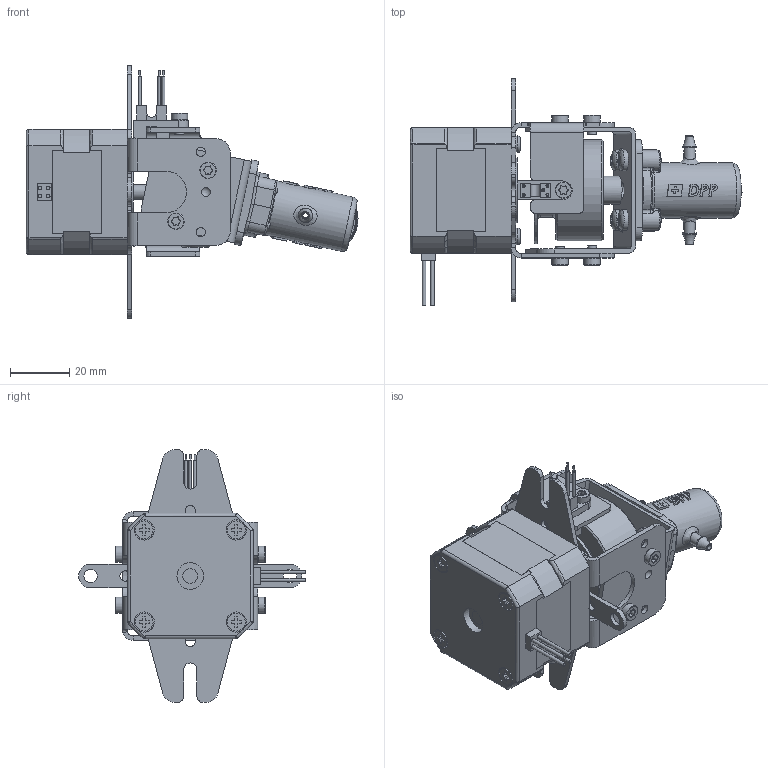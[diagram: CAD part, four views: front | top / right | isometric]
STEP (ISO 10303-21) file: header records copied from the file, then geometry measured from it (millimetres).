
FILE_DESCRIPTION (( 'STEP AP214' ), '1' );
FILE_NAME ('PD0022A2.STEP', '2017-03-06T17:32:46', ( '' ), ( '' ), 'SwSTEP 2.0', 'SolidWorks 2015', '' );
FILE_SCHEMA (( 'AUTOMOTIVE_DESIGN' ));
Length unit declared in the file: millimetre
Products named in the file (22): PD22-CP-1; PD22-DE-0; PD22-MO-0; PD22-SC-0_SC0111; PD22-OS-0; PD03-SC-0; PD22-SC-2_SC0104; PD22-MB-0_Standard; PD22-PP-1; PD22-SC-1_SC0112; PD0022A2; PD22-PA-2; PD22-PA-0; PD22-EA-1; PD22-DP-0; PD22-EL-0; PD22-CH-1A2; PD22-CH-0A2; Housing^PD22-CH-0A2; PD22-MB-1; PD22-MA-0; PD22-EA-0
Assembly tree (30 placements, depth 6):
  PD0022A2
    PD22-MA-0
      PD22-MB-0_Standard
      PD03-SC-0  x4
      PD22-OS-0
      PD22-SC-0_SC0111
      PD22-MO-0
      PD22-EA-0
        PD22-DE-0
        PD22-CP-1
    PD22-PP-1
      PD22-MB-1
      PD22-PA-2
        PD22-CH-1A2
          PD22-CH-0A2
            Housing^PD22-CH-0A2
        PD22-PA-0
          PD22-EA-1
            PD22-EL-0
            PD22-DP-0
      PD22-SC-1_SC0112  x4
    PD22-SC-2_SC0104  x4
Bounding box: 111.66 x 76.15 x 85 mm (x, y, z)
Volume: 97086.5 mm3; surface area: 44739.9 mm2
Topology: 22 solids, 22 shells, 1009 faces, 2517 edges, 1614 vertices
Faces by surface type: plane 442, cylinder 364, bspline 125, torus 38, cone 26, sphere 14
Full cylindrical faces by diameter (mm): 0.05 x2, 0.6 x5, 1 x5, 1.25 x4, 1.8 x2, 2.5 x10, 3 x5, 3.065 x2, 3.1 x4, 3.18 x1, 3.5 x12, 3.6 x4, 3.9 x4, 4.5 x2, 4.8 x2, 5 x3, 5.2 x1, 5.5 x9, 6 x4, 6.8 x4, 7 x6, 9 x1, 9.5 x1, 10.1 x1, 10.5 x1, 12 x2, 17 x1, 18 x1, 18.65 x1, 22 x1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
Entity records: 32301 total; most frequent: CARTESIAN_POINT 11707, ORIENTED_EDGE 4080, DIRECTION 3739, EDGE_CURVE 2040, VERTEX_POINT 1376, AXIS2_PLACEMENT_3D 1373, EDGE_LOOP 1160, VECTOR 993
